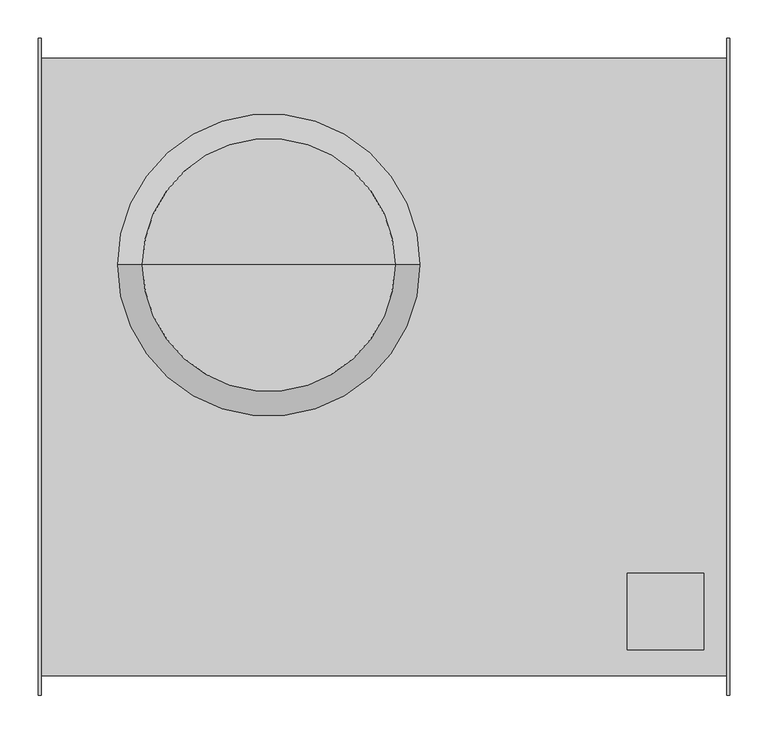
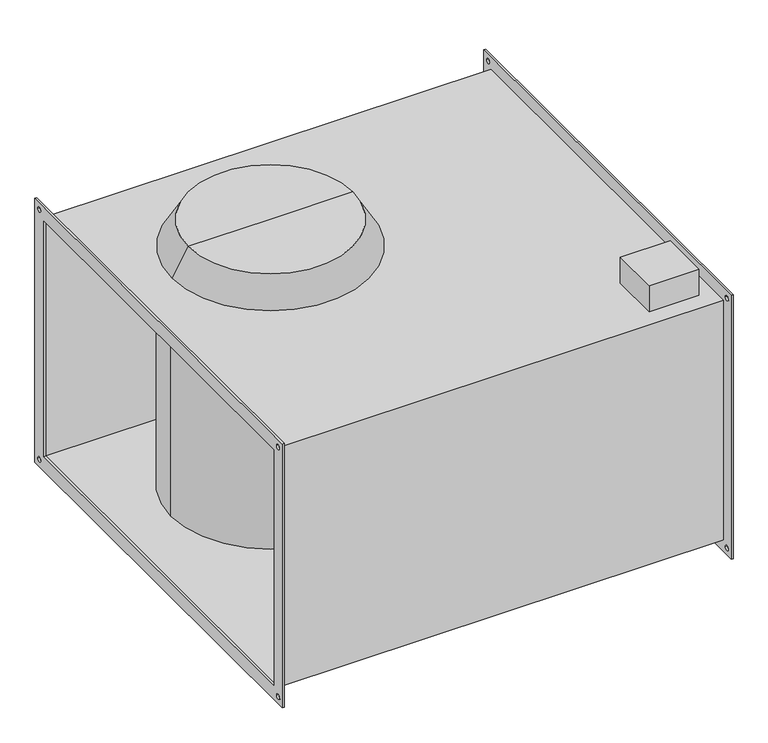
"""IFC4 building model written with IfcOpenShell, lengths in millimetres: proxy geometry."""

from ifc_helpers import new_model, si_unit, point, frame, frame_2d, origin, place, context, project, spatial, polyline, circle_curve, trimmed, segment, composite_curve, outline, extrude, source, transform, mapped, element, save
from ifc_brep_helpers import plane_surface, cylinder_surface, revolved_surface, advanced_brep


def mechanical_equipment_08a73665(model_context):
    return source(origin(), model_context, "Body", "SolidModel", [
        extrude(outline(polyline([(430.0, 280.0), (430.0, -280.0), (-430.0, -280.0), (-430.0, 280.0), (430.0, 280.0)]), holes=[polyline([(400.0, 250.0), (-400.0, 250.0), (-400.0, -250.0), (400.0, -250.0), (400.0, 250.0)]), composite_curve([segment(trimmed(circle_curve(frame_2d((415.0, 265.0)), 5.0), [point((410.0, 265.0))], [point((420.0, 265.0))], True, "CARTESIAN"), True, "CONTINUOUS"), segment(trimmed(circle_curve(frame_2d((415.0, 265.0)), 5.0), [point((420.0, 265.0))], [point((410.0, 265.0))], True, "CARTESIAN"), True, "CONTINUOUS")], self_intersect=False), composite_curve([segment(trimmed(circle_curve(frame_2d((-415.0, 265.0)), 5.0), [point((-420.0, 265.0))], [point((-410.0, 265.0))], True, "CARTESIAN"), True, "CONTINUOUS"), segment(trimmed(circle_curve(frame_2d((-415.0, 265.0)), 5.0), [point((-410.0, 265.0))], [point((-420.0, 265.0))], True, "CARTESIAN"), True, "CONTINUOUS")], self_intersect=False), composite_curve([segment(trimmed(circle_curve(frame_2d((-415.0, -265.0)), 5.0), [point((-420.0, -265.0))], [point((-410.0, -265.0))], True, "CARTESIAN"), True, "CONTINUOUS"), segment(trimmed(circle_curve(frame_2d((-415.0, -265.0)), 5.0), [point((-410.0, -265.0))], [point((-420.0, -265.0))], True, "CARTESIAN"), True, "CONTINUOUS")], self_intersect=False), composite_curve([segment(trimmed(circle_curve(frame_2d((415.0, -265.0)), 5.0), [point((410.0, -265.0))], [point((420.0, -265.0))], True, "CARTESIAN"), True, "CONTINUOUS"), segment(trimmed(circle_curve(frame_2d((415.0, -265.0)), 5.0), [point((420.0, -265.0))], [point((410.0, -265.0))], True, "CARTESIAN"), True, "CONTINUOUS")], self_intersect=False)]), frame((448.5, 0.0, 0.0), z_axis=(1.0, 0.0, 0.0), x_axis=(0.0, 1.0, 0.0)), (0.0, 0.0, 1.0), 4.0),
        extrude(outline(polyline([(-430.0, 280.0), (430.0, 280.0), (430.0, -280.0), (-430.0, -280.0), (-430.0, 280.0)]), holes=[polyline([(-400.0, 250.0), (-400.0, -250.0), (400.0, -250.0), (400.0, 250.0), (-400.0, 250.0)]), composite_curve([segment(trimmed(circle_curve(frame_2d((415.0, 265.0)), 5.0), [point((410.0, 265.0))], [point((420.0, 265.0))], True, "CARTESIAN"), True, "CONTINUOUS"), segment(trimmed(circle_curve(frame_2d((415.0, 265.0)), 5.0), [point((420.0, 265.0))], [point((410.0, 265.0))], True, "CARTESIAN"), True, "CONTINUOUS")], self_intersect=False), composite_curve([segment(trimmed(circle_curve(frame_2d((-415.0, 265.0)), 5.0), [point((-420.0, 265.0))], [point((-410.0, 265.0))], True, "CARTESIAN"), True, "CONTINUOUS"), segment(trimmed(circle_curve(frame_2d((-415.0, 265.0)), 5.0), [point((-410.0, 265.0))], [point((-420.0, 265.0))], True, "CARTESIAN"), True, "CONTINUOUS")], self_intersect=False), composite_curve([segment(trimmed(circle_curve(frame_2d((-415.0, -265.0)), 5.0), [point((-420.0, -265.0))], [point((-410.0, -265.0))], True, "CARTESIAN"), True, "CONTINUOUS"), segment(trimmed(circle_curve(frame_2d((-415.0, -265.0)), 5.0), [point((-410.0, -265.0))], [point((-420.0, -265.0))], True, "CARTESIAN"), True, "CONTINUOUS")], self_intersect=False), composite_curve([segment(trimmed(circle_curve(frame_2d((415.0, -265.0)), 5.0), [point((410.0, -265.0))], [point((420.0, -265.0))], True, "CARTESIAN"), True, "CONTINUOUS"), segment(trimmed(circle_curve(frame_2d((415.0, -265.0)), 5.0), [point((420.0, -265.0))], [point((410.0, -265.0))], True, "CARTESIAN"), True, "CONTINUOUS")], self_intersect=False)]), frame((-452.5, 0.0, 0.0), z_axis=(1.0, 0.0, 0.0), x_axis=(0.0, 1.0, 0.0)), (0.0, 0.0, 1.0), 4.0),
        advanced_brep(
        [(-150.8333333, 133.3333333, 310.0), (-316.1923172, 133.3333333, 310.0), (14.5256505, 133.3333333, 310.0), (-350.8333333, 133.3333333, 250.0), (-350.8333333, 133.3333333, -250.0), (49.1666667, 133.3333333, -250.0), (49.1666667, 133.3333333, 250.0), (448.5, -404.0, 254.0), (448.5, -404.0, -254.0), (448.5, 404.0, -254.0), (448.5, 404.0, 254.0), (448.5, 400.0, 250.0), (448.5, 400.0, -250.0), (448.5, -400.0, -250.0), (448.5, -400.0, 250.0), (-448.5, -404.0, 254.0), (-448.5, 404.0, 254.0), (-448.5, 404.0, -254.0), (-448.5, -404.0, -254.0), (-448.5, 400.0, 250.0), (-448.5, -400.0, 250.0), (-448.5, -400.0, -250.0), (-448.5, 400.0, -250.0), (318.5, -270.0, 254.0), (418.5, -270.0, 254.0), (418.5, -370.0, 254.0), (318.5, -370.0, 254.0), (46.8572656, 133.3333333, 254.0), (-348.5239323, 133.3333333, 254.0), (418.5, -270.0, 310.0), (318.5, -270.0, 310.0), (318.5, -370.0, 310.0), (418.5, -370.0, 310.0)],
        [
            (0, 1),
            (1, 2, circle_curve(frame((-150.8333333, 133.3333333, 310.0), z_axis=(0.0, 0.0, 1.0), x_axis=(-1.0, 0.0, 0.0)), 165.3589838)),
            (2, 0),
            (2, 1, circle_curve(frame((-150.8333333, 133.3333333, 310.0), z_axis=(0.0, 0.0, 1.0), x_axis=(-1.0, 0.0, 0.0)), 165.3589838)),
            (3, 4),
            (4, 5, circle_curve(frame((-150.8333333, 133.3333333, -250.0), z_axis=(0.0, 0.0, 1.0), x_axis=(-1.0, 0.0, 0.0)), 200.0)),
            (5, 6),
            (6, 3, circle_curve(frame((-150.8333333, 133.3333333, 250.0), z_axis=(0.0, 0.0, -1.0), x_axis=(-1.0, 0.0, 0.0)), 200.0)),
            (3, 6, circle_curve(frame((-150.8333333, 133.3333333, 250.0), z_axis=(0.0, 0.0, -1.0), x_axis=(-1.0, 0.0, 0.0)), 200.0)),
            (5, 4, circle_curve(frame((-150.8333333, 133.3333333, -250.0), z_axis=(0.0, 0.0, 1.0), x_axis=(-1.0, 0.0, 0.0)), 200.0)),
            (7, 8),
            (8, 9),
            (9, 10),
            (10, 7),
            (11, 12),
            (12, 13),
            (13, 14),
            (14, 11),
            (15, 16),
            (16, 17),
            (17, 18),
            (18, 15),
            (19, 20),
            (20, 21),
            (21, 22),
            (22, 19),
            (11, 19),
            (22, 12),
            (21, 13),
            (20, 14),
            (7, 15),
            (18, 8),
            (17, 9),
            (16, 10),
            (23, 24),
            (24, 25),
            (25, 26),
            (26, 23),
            (27, 28, circle_curve(frame((-150.8333333, 133.3333333, 254.0), z_axis=(0.0, 0.0, -1.0), x_axis=(-1.0, 0.0, 0.0)), 197.6905989)),
            (28, 27, circle_curve(frame((-150.8333333, 133.3333333, 254.0), z_axis=(0.0, 0.0, -1.0), x_axis=(-1.0, 0.0, 0.0)), 197.6905989)),
            (29, 30),
            (30, 31),
            (31, 32),
            (32, 29),
            (29, 24),
            (23, 30),
            (26, 31),
            (25, 32),
            (1, 28),
            (27, 2),
        ],
        [
            plane_surface(frame((-150.8333333, 133.3333333, 310.0), z_axis=(0.0, 0.0, 1.0), x_axis=(-1.0, 0.0, 0.0))),
            cylinder_surface(frame((-150.8333333, 133.3333333, 2422.3096565), z_axis=(0.0, 0.0, 1.0), x_axis=(-1.0, 0.0, 0.0)), 200.0),
            plane_surface(frame((448.5, 400.0, -250.0), z_axis=(1.0, 0.0, 0.0), x_axis=(0.0, 0.0, -1.0))),
            plane_surface(frame((-448.5, 400.0, -250.0), z_axis=(-1.0, 0.0, 0.0), x_axis=(0.0, 0.0, 1.0))),
            plane_surface(frame((448.5, 400.0, 250.0), z_axis=(0.0, -1.0, 0.0), x_axis=(-1.0, 0.0, 0.0))),
            plane_surface(frame((448.5, 400.0, -250.0), z_axis=(0.0, 0.0, 1.0), x_axis=(-1.0, 0.0, 0.0))),
            plane_surface(frame((448.5, -400.0, -250.0), z_axis=(0.0, 1.0, 0.0), x_axis=(-1.0, 0.0, 0.0))),
            plane_surface(frame((448.5, -400.0, 250.0), z_axis=(0.0, 0.0, -1.0), x_axis=(-1.0, 0.0, 0.0))),
            plane_surface(frame((448.5, -404.0, 254.0), z_axis=(0.0, -1.0, 0.0), x_axis=(-1.0, 0.0, 0.0))),
            plane_surface(frame((448.5, -404.0, -254.0), z_axis=(0.0, 0.0, -1.0), x_axis=(-1.0, 0.0, 0.0))),
            plane_surface(frame((448.5, 404.0, -254.0), z_axis=(0.0, 1.0, 0.0), x_axis=(-1.0, 0.0, 0.0))),
            plane_surface(frame((448.5, 404.0, 254.0), z_axis=(0.0, 0.0, 1.0), x_axis=(-1.0, 0.0, 0.0))),
            plane_surface(frame((318.5, -270.0, 310.0), z_axis=(0.0, 0.0, 1.0), x_axis=(-1.0, 0.0, 0.0))),
            plane_surface(frame((418.5, -270.0, 310.0), z_axis=(0.0, 1.0, 0.0), x_axis=(0.0, 0.0, -1.0))),
            plane_surface(frame((318.5, -270.0, 310.0), z_axis=(-1.0, 0.0, 0.0), x_axis=(0.0, 0.0, -1.0))),
            plane_surface(frame((318.5, -370.0, 310.0), z_axis=(0.0, -1.0, 0.0), x_axis=(0.0, 0.0, -1.0))),
            plane_surface(frame((418.5, -370.0, 310.0), z_axis=(1.0, 0.0, 0.0), x_axis=(0.0, 0.0, -1.0))),
            revolved_surface(polyline([(-350.8333333, 133.3333333, 250.0), (-316.1923172, 133.3333333, 310.0)]), (-150.8333333, 133.3333333, 2422.3096565), (0.0, 0.0, 1.0)),
        ],
        [
            (0, [[1, 2, 3]]),
            (0, [[-1, -3, 4]]),
            (1, [[5, 6, 7, 8]]),
            (1, [[-5, 9, -7, 10]]),
            (2, [[11, 12, 13, 14], [15, 16, 17, 18]]),
            (3, [[19, 20, 21, 22], [23, 24, 25, 26]]),
            (4, [[-15, 27, -26, 28]]),
            (5, [[-16, -28, -25, 29], [-6, -10]]),
            (6, [[-17, -29, -24, 30]]),
            (7, [[-18, -30, -23, -27], [-8, -9]]),
            (8, [[-11, 31, -22, 32]]),
            (9, [[-12, -32, -21, 33]]),
            (10, [[-13, -33, -20, 34]]),
            (11, [[-14, -34, -19, -31], [35, 36, 37, 38], [39, 40]]),
            (12, [[41, 42, 43, 44]]),
            (13, [[-41, 45, -35, 46]]),
            (14, [[-42, -46, -38, 47]]),
            (15, [[-43, -47, -37, 48]]),
            (16, [[-44, -48, -36, -45]]),
            (17, [[-2, 49, -39, 50]]),
            (17, [[-4, -50, -40, -49]]),
        ],
    ),
    ])


if __name__ == "__main__":
    model = new_model("IFC4")
    model_context = context("Model", 3, world=origin())
    ifc_project = project(units=[si_unit("LENGTHUNIT", "METRE", prefix="MILLI")], contexts=[model_context])
    site = spatial("IfcSite", under=ifc_project)
    building = spatial("IfcBuilding", under=site)
    placement = place(None, origin())
    mechanical_equipment_shape = mechanical_equipment_08a73665(model_context)
    element("IfcBuildingElementProxy", 1, Name="Mechanical Equipment", at=placement, inside=building, context=model_context, shape_type="MappedRepresentation", body=[
        mapped(mechanical_equipment_shape, transform((0.0, 0.0, 0.0), x_axis=(1.0, 0.0, 0.0), y_axis=(0.0, 1.0, 0.0), z_axis=(0.0, 0.0, 1.0))),
    ])
    save(model, "model.ifc")
